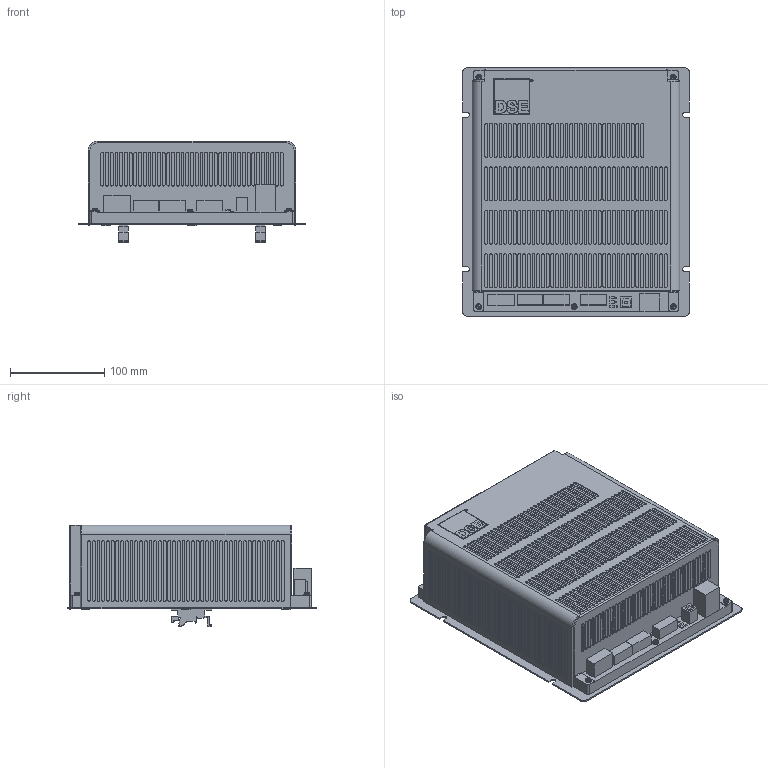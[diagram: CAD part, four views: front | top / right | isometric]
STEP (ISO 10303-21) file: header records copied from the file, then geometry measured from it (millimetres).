
FILE_DESCRIPTION (( 'STEP AP214' ), '1' );
FILE_NAME ('DSE9474.STEP', '2015-11-26T15:22:50', ( '' ), ( '' ), 'SwSTEP 2.0', 'SolidWorks 2015', '' );
FILE_SCHEMA (( 'AUTOMOTIVE_DESIGN' ));
Length unit declared in the file: millimetre
Products named in the file (1): DSE9474
Bounding box: 240 x 263 x 107.6 mm (x, y, z)
Volume: 4640778.8 mm3; surface area: 239708.7 mm2
Topology: 3 solids, 4 shells, 2689 faces, 6944 edges, 4601 vertices
Faces by surface type: plane 1589, cylinder 921, bspline 113, cone 66
Entity records: 114463 total; most frequent: CARTESIAN_POINT 18240, ORIENTED_EDGE 13868, DIRECTION 13727, EDGE_CURVE 6934, VERTEX_POINT 4601, AXIS2_PLACEMENT_3D 4586, VECTOR 4555, LINE 4555
